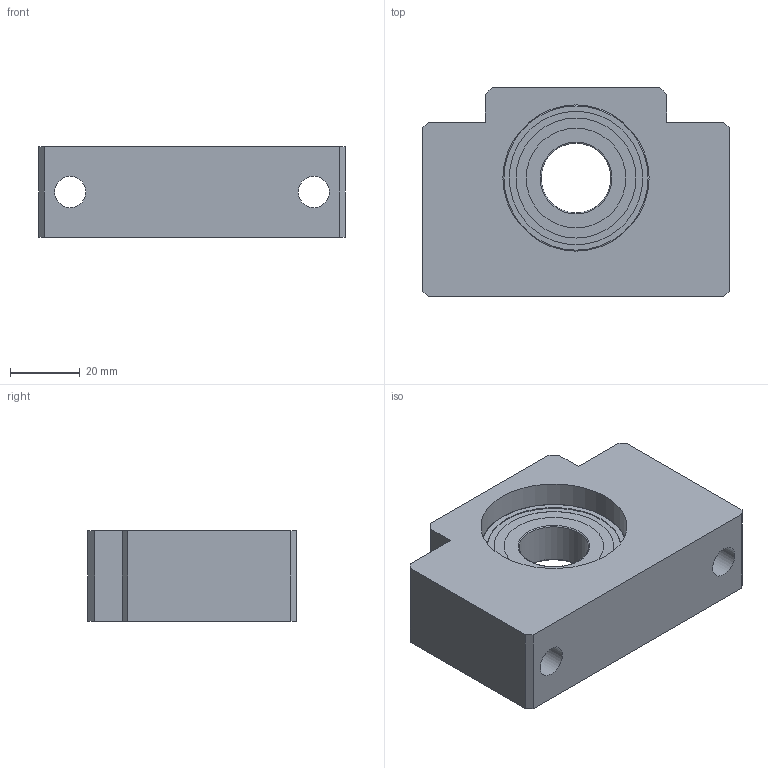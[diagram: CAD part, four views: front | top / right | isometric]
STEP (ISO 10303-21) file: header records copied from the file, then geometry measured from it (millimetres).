
FILE_DESCRIPTION(/* description */ ('STEP AP214'),/* implementation_level */ '2;1');
FILE_NAME(/* name */ 'BF20',/* time_stamp */ '2026-09-17T13:13:15+02:00',/* author */ ('License CC BY-ND 4.0'),/* organization */ ('CADENAS'),/* preprocessor_version */ 'ST-DEVELOPER v20',/* originating_system */ 'PARTsolutions',/* authorisation */ ' ');
FILE_SCHEMA (('AUTOMOTIVE_DESIGN {1 0 10303 214 3 1 1}'));
Length unit declared in the file: millimetre
Products named in the file (3): BF20; BF 20 Part1; BF 20 Part2
Assembly tree (2 placements, depth 2):
  BF20
    BF 20 Part1
    BF 20 Part2
Bounding box: 88 x 60 x 26 mm (x, y, z)
Volume: 96491.1 mm3; surface area: 25410 mm2
Topology: 2 solids, 2 shells, 43 faces, 90 edges, 59 vertices
Faces by surface type: plane 26, cylinder 13, torus 4
Full cylindrical faces by diameter (mm): 9 x2, 14 x2, 20 x1, 28.64 x2, 34.46 x2, 38.36 x2, 42 x2
Entity records: 1147 total; most frequent: DIRECTION 194, CARTESIAN_POINT 176, ORIENTED_EDGE 144, EDGE_LOOP 76, FACE_BOUND 76, AXIS2_PLACEMENT_3D 76, EDGE_CURVE 72, VERTEX_POINT 58
